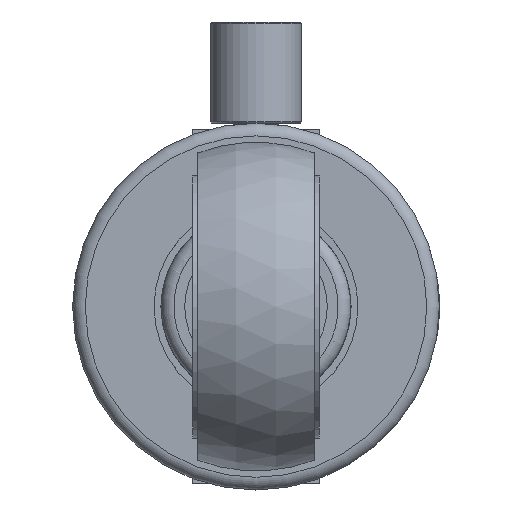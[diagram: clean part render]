
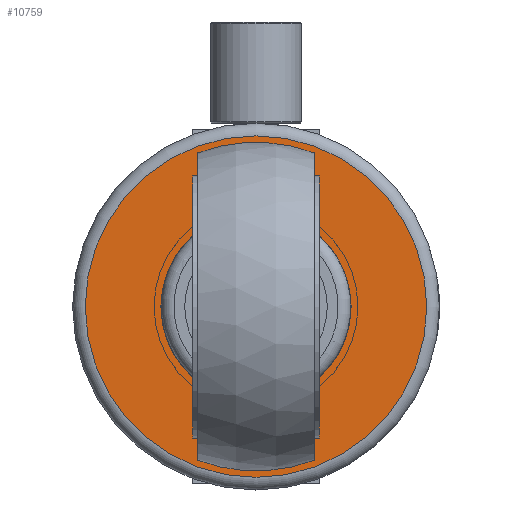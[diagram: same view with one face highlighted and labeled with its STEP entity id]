
A CAD part, front view. The second image highlights one B-rep face of the part: STEP entity #10759.
In plain terms, the highlighted planar face has unit normal (0, -1, 0) as drawn and (0, 0, -1) by its records, which use the part's own axes.
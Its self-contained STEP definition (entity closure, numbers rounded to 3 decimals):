
#1080=FACE_BOUND('',#4050,.T.);
#1324=PLANE('',#11410);
#3380=FACE_OUTER_BOUND('',#4049,.T.);
#4049=EDGE_LOOP('',(#9885));
#4050=EDGE_LOOP('',(#9886));
#4328=CIRCLE('',#11406,37.6);
#4331=CIRCLE('',#11411,67.5);
#5354=VERTEX_POINT('',#27899);
#5357=VERTEX_POINT('',#27909);
#6880=EDGE_CURVE('',#5354,#5354,#4328,.T.);
#6885=EDGE_CURVE('',#5357,#5357,#4331,.T.);
#9885=ORIENTED_EDGE('',*,*,#6885,.F.);
#9886=ORIENTED_EDGE('',*,*,#6880,.F.);
#10759=ADVANCED_FACE('',(#3380,#1080),#1324,.F.);
#11406=AXIS2_PLACEMENT_3D('',#27900,#13130,#13131);
#11410=AXIS2_PLACEMENT_3D('',#27908,#13140,#13141);
#11411=AXIS2_PLACEMENT_3D('',#27910,#13142,#13143);
#13130=DIRECTION('center_axis',(0.,0.,-1.));
#13131=DIRECTION('ref_axis',(-1.,0.,0.));
#13140=DIRECTION('center_axis',(0.,0.,1.));
#13141=DIRECTION('ref_axis',(1.,0.,0.));
#13142=DIRECTION('center_axis',(0.,0.,1.));
#13143=DIRECTION('ref_axis',(1.,0.,0.));
#27899=CARTESIAN_POINT('',(37.6,0.,0.));
#27900=CARTESIAN_POINT('Origin',(0.,0.,0.));
#27908=CARTESIAN_POINT('Origin',(0.,0.,0.));
#27909=CARTESIAN_POINT('',(-67.5,0.,0.));
#27910=CARTESIAN_POINT('Origin',(0.,0.,0.));
